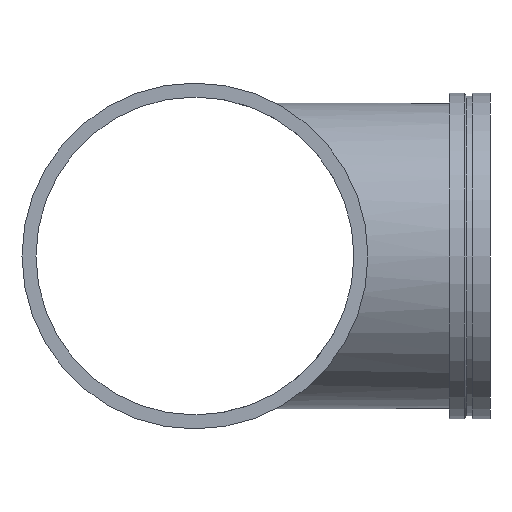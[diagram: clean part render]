
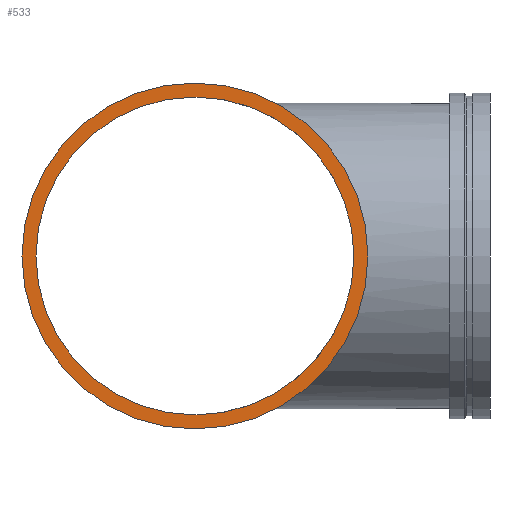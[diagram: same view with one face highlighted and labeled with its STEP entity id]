
A CAD part, left-side view. The second image highlights one B-rep face of the part: STEP entity #533.
In plain terms, the highlighted planar face has unit normal (-1, 0, 0).
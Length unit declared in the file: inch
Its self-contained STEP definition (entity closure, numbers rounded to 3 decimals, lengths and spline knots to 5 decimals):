
#58=FACE_BOUND('',#128,.T.);
#67=PLANE('',#626);
#92=FACE_OUTER_BOUND('',#127,.T.);
#127=EDGE_LOOP('',(#465,#466));
#128=EDGE_LOOP('',(#467,#468));
#151=CIRCLE('',#587,17.);
#152=CIRCLE('',#588,17.);
#175=CIRCLE('',#624,15.625);
#176=CIRCLE('',#625,15.625);
#239=VERTEX_POINT('',#1185);
#240=VERTEX_POINT('',#1187);
#263=VERTEX_POINT('',#1254);
#264=VERTEX_POINT('',#1256);
#299=EDGE_CURVE('',#239,#240,#151,.T.);
#300=EDGE_CURVE('',#240,#239,#152,.T.);
#331=EDGE_CURVE('',#264,#263,#175,.T.);
#332=EDGE_CURVE('',#263,#264,#176,.T.);
#465=ORIENTED_EDGE('',*,*,#300,.F.);
#466=ORIENTED_EDGE('',*,*,#299,.F.);
#467=ORIENTED_EDGE('',*,*,#331,.T.);
#468=ORIENTED_EDGE('',*,*,#332,.T.);
#533=ADVANCED_FACE('',(#92,#58),#67,.T.);
#587=AXIS2_PLACEMENT_3D('',#1188,#716,#717);
#588=AXIS2_PLACEMENT_3D('',#1189,#718,#719);
#624=AXIS2_PLACEMENT_3D('',#1257,#798,#799);
#625=AXIS2_PLACEMENT_3D('',#1258,#800,#801);
#626=AXIS2_PLACEMENT_3D('',#1259,#802,#803);
#716=DIRECTION('center_axis',(1.,0.,0.));
#717=DIRECTION('ref_axis',(0.,0.,1.));
#718=DIRECTION('center_axis',(1.,0.,0.));
#719=DIRECTION('ref_axis',(0.,0.,1.));
#798=DIRECTION('center_axis',(1.,0.,0.));
#799=DIRECTION('ref_axis',(0.,0.,1.));
#800=DIRECTION('center_axis',(1.,0.,0.));
#801=DIRECTION('ref_axis',(0.,0.,1.));
#802=DIRECTION('center_axis',(-1.,0.,0.));
#803=DIRECTION('ref_axis',(0.,0.,-1.));
#1185=CARTESIAN_POINT('',(-29.5,17.,0.));
#1187=CARTESIAN_POINT('',(-29.5,-17.,0.));
#1188=CARTESIAN_POINT('Origin',(-29.5,0.,0.));
#1189=CARTESIAN_POINT('Origin',(-29.5,0.,0.));
#1254=CARTESIAN_POINT('',(-29.5,15.625,0.));
#1256=CARTESIAN_POINT('',(-29.5,-15.625,0.));
#1257=CARTESIAN_POINT('Origin',(-29.5,0.,0.));
#1258=CARTESIAN_POINT('Origin',(-29.5,0.,0.));
#1259=CARTESIAN_POINT('Origin',(-29.5,-17.,0.));
